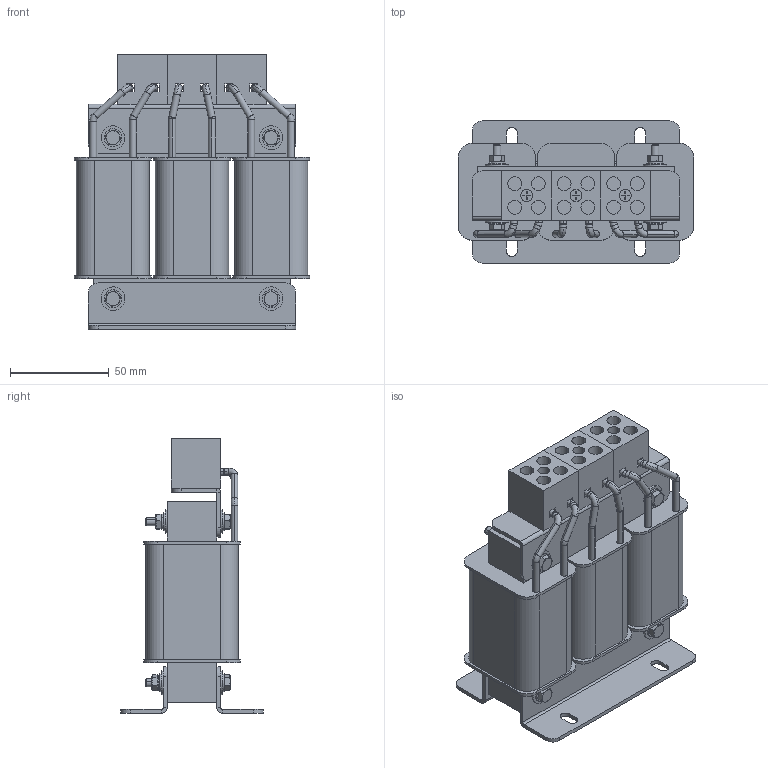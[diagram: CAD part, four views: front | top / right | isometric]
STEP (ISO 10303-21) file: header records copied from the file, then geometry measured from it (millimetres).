
FILE_DESCRIPTION (( 'STEP AP203' ), '1' );
FILE_NAME ('Ñåòåâîé äðîññåëü _ ISF-2.2_5.8-4.STEP', '2026-03-20T12:31:28', ( '' ), ( '' ), 'SwSTEP 2.0', 'SolidWorks 2021', '' );
FILE_SCHEMA (( 'CONFIG_CONTROL_DESIGN' ));
Length unit declared in the file: millimetre
Products named in the file (18): Âûâîä êàòóøêè_Y; Èçîëÿòîð êàòóøêè; Øàéáà ïðóæèííàÿ DIN 127 (A)_Œ4; Ñåòåâîé äðîññåëü _ ISF-2.2_5.8-4; Øàéáà ïëîñêàÿ DIN 9021_Œ4; Âûâîä êàòóøêè_X; Êàòóøêà; 咈櫡; ﾑ褞蒟韭; Øàéáà ïëîñêàÿ DIN 125 (A)_Œ4; Âûâîä êàòóøêè_W_T; Âûâîä êàòóøêè_V_S; Âûâîä êàòóøêè_U_R; 抔樦擨鴀; Óãîëîê êëåììíèêà; Áîëò DIN 933_Œ4å40; Âûâîä êàòóøêè_Z; Ãàéêà DIN 934_Œ4
Assembly tree (50 placements, depth 2):
  Ñåòåâîé äðîññåëü _ ISF-2.2_5.8-4
    ﾑ褞蒟韭
    咈櫡  x2
    Èçîëÿòîð êàòóøêè  x6
    Êàòóøêà  x3
    Óãîëîê êëåììíèêà
    抔樦擨鴀  x3
    Øàéáà ïëîñêàÿ DIN 9021_Œ4  x8
    Øàéáà ïëîñêàÿ DIN 125 (A)_Œ4  x8
    Øàéáà ïðóæèííàÿ DIN 127 (A)_Œ4  x4
    Ãàéêà DIN 934_Œ4  x4
    Áîëò DIN 933_Œ4å40  x4
    Âûâîä êàòóøêè_U_R
    Âûâîä êàòóøêè_X
    Âûâîä êàòóøêè_V_S
    Âûâîä êàòóøêè_Y
    Âûâîä êàòóøêè_W_T
    Âûâîä êàòóøêè_Z
Bounding box: 119 x 72 x 139 mm (x, y, z)
Volume: 483956 mm3; surface area: 159520.8 mm2
Topology: 50 solids, 50 shells, 829 faces, 1915 edges, 1218 vertices
Faces by surface type: plane 406, cylinder 255, cone 124, torus 44
Entity records: 12338 total; most frequent: DIRECTION 1796, CARTESIAN_POINT 1743, ORIENTED_EDGE 1502, EDGE_CURVE 751, AXIS2_PLACEMENT_3D 704, VERTEX_POINT 475, VECTOR 388, LINE 388
